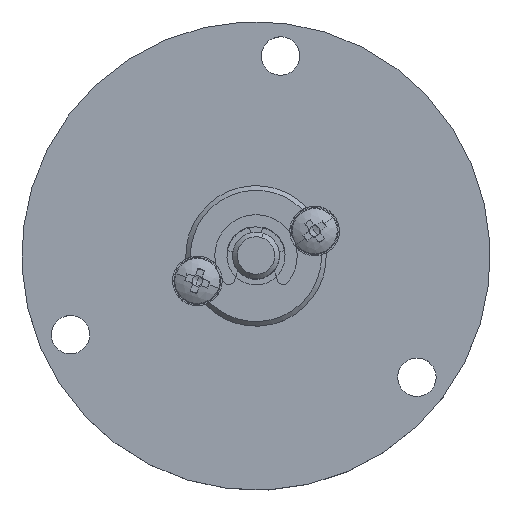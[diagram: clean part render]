
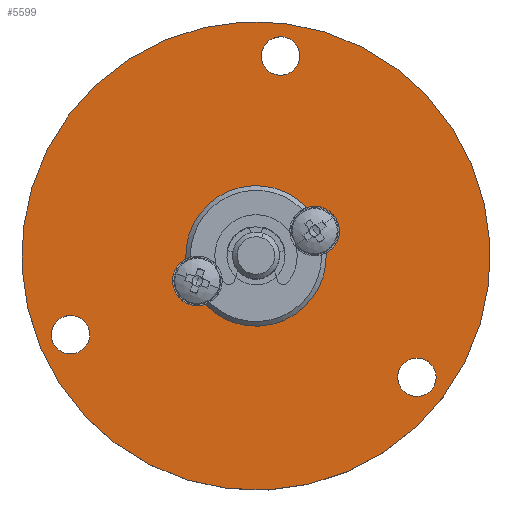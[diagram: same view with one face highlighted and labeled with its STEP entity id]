
A CAD part, top view. The second image highlights one B-rep face of the part: STEP entity #5599.
In plain terms, the highlighted planar face has unit normal (0, 0, 1) as drawn and (0, 1, 0) by its records, which use the part's own axes.
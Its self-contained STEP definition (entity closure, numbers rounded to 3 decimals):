
#206 = EDGE_CURVE ( 'NONE', #5308, #3930, #7356, .T. ) ;
#215 = CARTESIAN_POINT ( 'NONE',  ( 0., 21.5, 0. ) ) ;
#255 = EDGE_CURVE ( 'NONE', #5936, #2246, #4115, .T. ) ;
#333 = EDGE_CURVE ( 'NONE', #9396, #7696, #6129, .T. ) ;
#381 = AXIS2_PLACEMENT_3D ( 'NONE', #10238, #4399, #11231 ) ;
#383 = CIRCLE ( 'NONE', #7479, 2.65 ) ;
#401 = CARTESIAN_POINT ( 'NONE',  ( -18.62, 21.5, 10.75 ) ) ;
#406 = DIRECTION ( 'NONE',  ( 0., -1., 0. ) ) ;
#463 = CARTESIAN_POINT ( 'NONE',  ( 0., 21.5, -25. ) ) ;
#625 = DIRECTION ( 'NONE',  ( 0., 0., -1. ) ) ;
#780 = FACE_BOUND ( 'NONE', #3412, .T. ) ;
#828 = CARTESIAN_POINT ( 'NONE',  ( 0., 21.5, 25. ) ) ;
#1181 = DIRECTION ( 'NONE',  ( 0., 0., -1. ) ) ;
#1262 = DIRECTION ( 'NONE',  ( 0., -1., 0. ) ) ;
#1365 = DIRECTION ( 'NONE',  ( 0., 0., -1. ) ) ;
#1415 = CIRCLE ( 'NONE', #8686, 2.05 ) ;
#1451 = ORIENTED_EDGE ( 'NONE', *, *, #333, .T. ) ;
#1462 = VERTEX_POINT ( 'NONE', #828 ) ;
#1592 = CARTESIAN_POINT ( 'NONE',  ( 2.641, 21.5, 7.02 ) ) ;
#1625 = EDGE_LOOP ( 'NONE', ( #5804, #9655 ) ) ;
#1716 = CARTESIAN_POINT ( 'NONE',  ( -2.641, 21.5, 7.02 ) ) ;
#1747 = DIRECTION ( 'NONE',  ( 0., -1., 0. ) ) ;
#1769 = VERTEX_POINT ( 'NONE', #1716 ) ;
#1789 = ORIENTED_EDGE ( 'NONE', *, *, #206, .T. ) ;
#1808 = ORIENTED_EDGE ( 'NONE', *, *, #12105, .F. ) ;
#1822 = AXIS2_PLACEMENT_3D ( 'NONE', #3668, #5589, #11829 ) ;
#1878 = DIRECTION ( 'NONE',  ( 0., 0., -1. ) ) ;
#1879 = AXIS2_PLACEMENT_3D ( 'NONE', #2995, #406, #7136 ) ;
#1902 = EDGE_LOOP ( 'NONE', ( #1451, #5944 ) ) ;
#1955 = CARTESIAN_POINT ( 'NONE',  ( 0., 21.5, -23.55 ) ) ;
#2020 = EDGE_CURVE ( 'NONE', #3528, #4324, #1415, .T. ) ;
#2036 = ORIENTED_EDGE ( 'NONE', *, *, #255, .T. ) ;
#2246 = VERTEX_POINT ( 'NONE', #1955 ) ;
#2281 = CARTESIAN_POINT ( 'NONE',  ( 0., 21.5, -6.8 ) ) ;
#2372 = CIRCLE ( 'NONE', #2673, 2.65 ) ;
#2456 = CARTESIAN_POINT ( 'NONE',  ( 0., 21.5, 0. ) ) ;
#2528 = EDGE_CURVE ( 'NONE', #4324, #3528, #7523, .T. ) ;
#2673 = AXIS2_PLACEMENT_3D ( 'NONE', #3961, #10786, #4949 ) ;
#2981 = DIRECTION ( 'NONE',  ( 0., -1., 0. ) ) ;
#2995 = CARTESIAN_POINT ( 'NONE',  ( 0., 21.5, -21.5 ) ) ;
#3078 = PLANE ( 'NONE',  #10674 ) ;
#3241 = DIRECTION ( 'NONE',  ( 0., -1., 0. ) ) ;
#3256 = DIRECTION ( 'NONE',  ( 0., 0., -1. ) ) ;
#3412 = EDGE_LOOP ( 'NONE', ( #1789, #8569, #6543, #10158, #5711, #5169 ) ) ;
#3528 = VERTEX_POINT ( 'NONE', #10509 ) ;
#3631 = EDGE_CURVE ( 'NONE', #5473, #1769, #12541, .T. ) ;
#3668 = CARTESIAN_POINT ( 'NONE',  ( 18.62, 21.5, 10.75 ) ) ;
#3846 = AXIS2_PLACEMENT_3D ( 'NONE', #2281, #9135, #3256 ) ;
#3847 = EDGE_CURVE ( 'NONE', #1462, #8770, #9791, .T. ) ;
#3886 = CARTESIAN_POINT ( 'NONE',  ( 0., 21.5, 6.8 ) ) ;
#3930 = VERTEX_POINT ( 'NONE', #1592 ) ;
#3940 = FACE_BOUND ( 'NONE', #1625, .T. ) ;
#3961 = CARTESIAN_POINT ( 'NONE',  ( 0., 21.5, -6.8 ) ) ;
#4115 = CIRCLE ( 'NONE', #1879, 2.05 ) ;
#4324 = VERTEX_POINT ( 'NONE', #9002 ) ;
#4399 = DIRECTION ( 'NONE',  ( 0., -1., 0. ) ) ;
#4478 = DIRECTION ( 'NONE',  ( 0., -1., 0. ) ) ;
#4535 = CARTESIAN_POINT ( 'NONE',  ( 2.641, 21.5, -7.02 ) ) ;
#4838 = AXIS2_PLACEMENT_3D ( 'NONE', #215, #7015, #1181 ) ;
#4870 = DIRECTION ( 'NONE',  ( 0., 0., -1. ) ) ;
#4949 = DIRECTION ( 'NONE',  ( 0., 0., -1. ) ) ;
#5073 = DIRECTION ( 'NONE',  ( 0., 0., -1. ) ) ;
#5141 = AXIS2_PLACEMENT_3D ( 'NONE', #7928, #1747, #1878 ) ;
#5169 = ORIENTED_EDGE ( 'NONE', *, *, #10883, .T. ) ;
#5308 = VERTEX_POINT ( 'NONE', #4535 ) ;
#5320 = CIRCLE ( 'NONE', #12140, 7.5 ) ;
#5473 = VERTEX_POINT ( 'NONE', #6695 ) ;
#5589 = DIRECTION ( 'NONE',  ( 0., -1., 0. ) ) ;
#5599 = ADVANCED_FACE ( 'NONE', ( #3940, #11440, #8551, #8853, #780 ), #3078, .F. ) ;
#5711 = ORIENTED_EDGE ( 'NONE', *, *, #9123, .T. ) ;
#5761 = CARTESIAN_POINT ( 'NONE',  ( 18.62, 21.5, 10.75 ) ) ;
#5804 = ORIENTED_EDGE ( 'NONE', *, *, #2020, .T. ) ;
#5936 = VERTEX_POINT ( 'NONE', #8490 ) ;
#5944 = ORIENTED_EDGE ( 'NONE', *, *, #9337, .T. ) ;
#6129 = CIRCLE ( 'NONE', #5141, 2.05 ) ;
#6151 = EDGE_CURVE ( 'NONE', #1769, #7823, #5320, .T. ) ;
#6313 = DIRECTION ( 'NONE',  ( 0., -1., 0. ) ) ;
#6543 = ORIENTED_EDGE ( 'NONE', *, *, #3631, .T. ) ;
#6695 = CARTESIAN_POINT ( 'NONE',  ( 0., 21.5, 9.45 ) ) ;
#6819 = CIRCLE ( 'NONE', #3846, 2.65 ) ;
#7015 = DIRECTION ( 'NONE',  ( 0., -1., 0. ) ) ;
#7102 = CARTESIAN_POINT ( 'NONE',  ( 0., 21.5, 6.8 ) ) ;
#7136 = DIRECTION ( 'NONE',  ( 0., 0., -1. ) ) ;
#7221 = DIRECTION ( 'NONE',  ( 0., -1., 0. ) ) ;
#7344 = EDGE_LOOP ( 'NONE', ( #2036, #10192 ) ) ;
#7356 = CIRCLE ( 'NONE', #11270, 7.5 ) ;
#7479 = AXIS2_PLACEMENT_3D ( 'NONE', #7102, #1262, #8079 ) ;
#7523 = CIRCLE ( 'NONE', #1822, 2.05 ) ;
#7672 = DIRECTION ( 'NONE',  ( 0., 0., -1. ) ) ;
#7696 = VERTEX_POINT ( 'NONE', #11194 ) ;
#7823 = VERTEX_POINT ( 'NONE', #9450 ) ;
#7928 = CARTESIAN_POINT ( 'NONE',  ( -18.62, 21.5, 10.75 ) ) ;
#8027 = EDGE_CURVE ( 'NONE', #2246, #5936, #8643, .T. ) ;
#8079 = DIRECTION ( 'NONE',  ( 0., 0., -1. ) ) ;
#8490 = CARTESIAN_POINT ( 'NONE',  ( 0., 21.5, -19.45 ) ) ;
#8534 = CIRCLE ( 'NONE', #11846, 2.05 ) ;
#8551 = FACE_BOUND ( 'NONE', #7344, .T. ) ;
#8569 = ORIENTED_EDGE ( 'NONE', *, *, #12180, .T. ) ;
#8643 = CIRCLE ( 'NONE', #9150, 2.05 ) ;
#8686 = AXIS2_PLACEMENT_3D ( 'NONE', #5761, #6313, #7672 ) ;
#8770 = VERTEX_POINT ( 'NONE', #463 ) ;
#8853 = FACE_OUTER_BOUND ( 'NONE', #11760, .T. ) ;
#8868 = CARTESIAN_POINT ( 'NONE',  ( 0., 21.5, 0. ) ) ;
#9002 = CARTESIAN_POINT ( 'NONE',  ( 18.62, 21.5, 8.7 ) ) ;
#9116 = CARTESIAN_POINT ( 'NONE',  ( 0., 21.5, -21.5 ) ) ;
#9123 = EDGE_CURVE ( 'NONE', #7823, #12281, #2372, .T. ) ;
#9135 = DIRECTION ( 'NONE',  ( 0., -1., 0. ) ) ;
#9150 = AXIS2_PLACEMENT_3D ( 'NONE', #9116, #3241, #10092 ) ;
#9187 = CARTESIAN_POINT ( 'NONE',  ( 0., 21.5, -9.45 ) ) ;
#9337 = EDGE_CURVE ( 'NONE', #7696, #9396, #8534, .T. ) ;
#9396 = VERTEX_POINT ( 'NONE', #11172 ) ;
#9450 = CARTESIAN_POINT ( 'NONE',  ( -2.641, 21.5, -7.02 ) ) ;
#9655 = ORIENTED_EDGE ( 'NONE', *, *, #2528, .T. ) ;
#9791 = CIRCLE ( 'NONE', #381, 25. ) ;
#9833 = DIRECTION ( 'NONE',  ( 0., 0., -1. ) ) ;
#9937 = CARTESIAN_POINT ( 'NONE',  ( 0., 21.5, 0. ) ) ;
#10092 = DIRECTION ( 'NONE',  ( 0., 0., -1. ) ) ;
#10158 = ORIENTED_EDGE ( 'NONE', *, *, #6151, .T. ) ;
#10192 = ORIENTED_EDGE ( 'NONE', *, *, #8027, .T. ) ;
#10238 = CARTESIAN_POINT ( 'NONE',  ( 0., 21.5, 0. ) ) ;
#10509 = CARTESIAN_POINT ( 'NONE',  ( 18.62, 21.5, 12.8 ) ) ;
#10674 = AXIS2_PLACEMENT_3D ( 'NONE', #9937, #10911, #5073 ) ;
#10718 = DIRECTION ( 'NONE',  ( 0., -1., 0. ) ) ;
#10786 = DIRECTION ( 'NONE',  ( 0., -1., 0. ) ) ;
#10883 = EDGE_CURVE ( 'NONE', #12281, #5308, #6819, .T. ) ;
#10911 = DIRECTION ( 'NONE',  ( 0., -1., 0. ) ) ;
#11047 = CIRCLE ( 'NONE', #4838, 25. ) ;
#11172 = CARTESIAN_POINT ( 'NONE',  ( -18.62, 21.5, 12.8 ) ) ;
#11194 = CARTESIAN_POINT ( 'NONE',  ( -18.62, 21.5, 8.7 ) ) ;
#11231 = DIRECTION ( 'NONE',  ( 0., 0., -1. ) ) ;
#11270 = AXIS2_PLACEMENT_3D ( 'NONE', #2456, #4478, #625 ) ;
#11440 = FACE_BOUND ( 'NONE', #1902, .T. ) ;
#11760 = EDGE_LOOP ( 'NONE', ( #1808, #11993 ) ) ;
#11829 = DIRECTION ( 'NONE',  ( 0., 0., -1. ) ) ;
#11846 = AXIS2_PLACEMENT_3D ( 'NONE', #401, #7221, #1365 ) ;
#11993 = ORIENTED_EDGE ( 'NONE', *, *, #3847, .F. ) ;
#12105 = EDGE_CURVE ( 'NONE', #8770, #1462, #11047, .T. ) ;
#12140 = AXIS2_PLACEMENT_3D ( 'NONE', #8868, #2981, #9833 ) ;
#12180 = EDGE_CURVE ( 'NONE', #3930, #5473, #383, .T. ) ;
#12281 = VERTEX_POINT ( 'NONE', #9187 ) ;
#12541 = CIRCLE ( 'NONE', #12612, 2.65 ) ;
#12612 = AXIS2_PLACEMENT_3D ( 'NONE', #3886, #10718, #4870 ) ;
